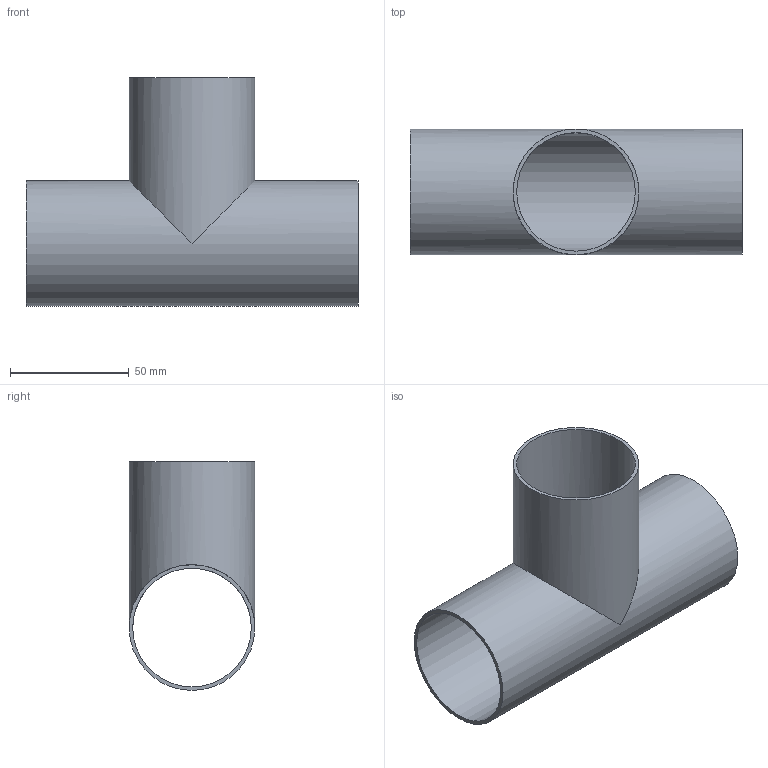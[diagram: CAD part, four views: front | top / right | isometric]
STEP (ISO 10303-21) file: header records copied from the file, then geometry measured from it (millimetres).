
FILE_DESCRIPTION(('FreeCAD Model'),'2;1');
FILE_NAME( '/home/martin/Documents/proyect/accesorios/stp/te_long_DN-50.step', '2018-01-07T08:11:34',('Author'),(''), 'Open CASCADE STEP processor 6.8','FreeCAD','Unknown');
FILE_SCHEMA(('AUTOMOTIVE_DESIGN_CC2 { 1 2 10303 214 -1 1 5 4 }'));
Length unit declared in the file: millimetre
Products named in the file (1): te_long_DN-50
Bounding box: 140 x 53 x 96.5 mm (x, y, z)
Volume: 43005.5 mm3; surface area: 58062.7 mm2
Topology: 1 solids, 1 shells, 7 faces, 16 edges, 12 vertices
Faces by surface type: cylinder 4, plane 3
Full cylindrical faces by diameter (mm): 50 x2, 53 x2
Entity records: 531 total; most frequent: CARTESIAN_POINT 172, DIRECTION 64, ORIENTED_EDGE 32, PCURVE 32, DEFINITIONAL_REPRESENTATION 32, AXIS2_PLACEMENT_3D 20, LINE 18, VECTOR 18
